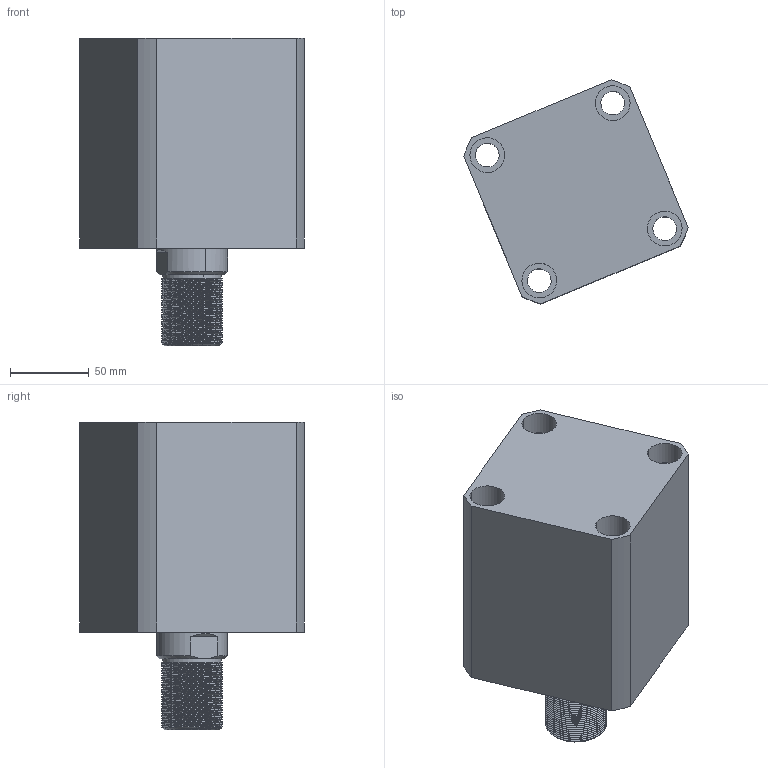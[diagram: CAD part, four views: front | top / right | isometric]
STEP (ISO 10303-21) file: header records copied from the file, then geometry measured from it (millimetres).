
FILE_DESCRIPTION (( 'STEP AP214' ), '1' );
FILE_NAME ('chtb-sd80x55n_asm.STEP', '2018-05-26T08:54:03', ( 'Windows' ), ( 'Microsoft' ), 'SwSTEP 2.0', 'SolidWorks 2015', '' );
FILE_SCHEMA (( 'AUTOMOTIVE_DESIGN' ));
Length unit declared in the file: millimetre
Products named in the file (4): CHTB-SD80X55NHSG; CHTB-SD80X55NBT; CHTB-SD80QG; chtb-sd80x55n_asm
Assembly tree (3 placements, depth 2):
  chtb-sd80x55n_asm
    CHTB-SD80QG
    CHTB-SD80X55NBT
    CHTB-SD80X55NHSG
Bounding box: 142.06 x 142.06 x 195 mm (x, y, z)
Volume: 1455665.2 mm3; surface area: 212269.1 mm2
Topology: 3 solids, 3 shells, 253 faces, 689 edges, 462 vertices
Faces by surface type: cylinder 159, plane 40, cone 20, torus 18, bspline 16
Entity records: 20271 total; most frequent: CARTESIAN_POINT 14293, ORIENTED_EDGE 1370, DIRECTION 1078, EDGE_CURVE 685, VERTEX_POINT 462, AXIS2_PLACEMENT_3D 439, EDGE_LOOP 291, FACE_OUTER_BOUND 253
